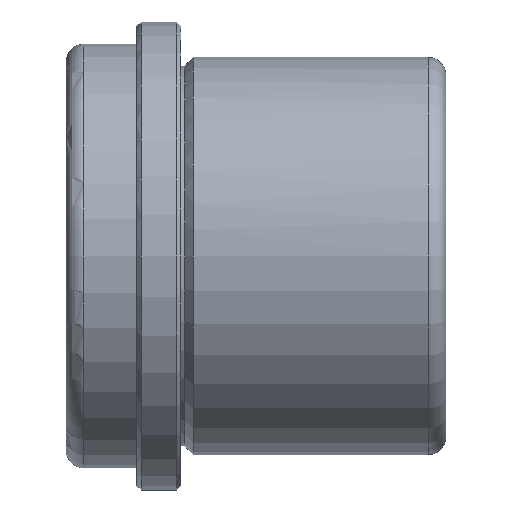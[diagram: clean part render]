
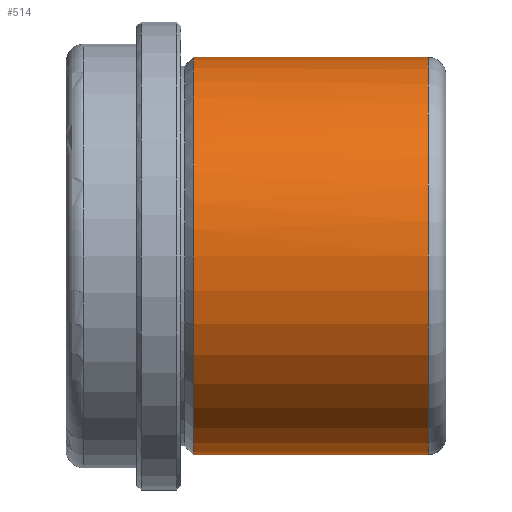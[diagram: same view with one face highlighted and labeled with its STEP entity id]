
A CAD part, front view. The second image highlights one B-rep face of the part: STEP entity #514.
In plain terms, the highlighted cylindrical face has radius 22.5 mm (diameter 45 mm), a partial arc.
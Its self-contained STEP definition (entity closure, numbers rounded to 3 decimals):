
#297=CARTESIAN_POINT('Line Origine',(30.,0.,22.5)) ;
#301=CARTESIAN_POINT('Vertex',(28.,0.,22.5)) ;
#303=CARTESIAN_POINT('Vertex',(1.414,0.,22.5)) ;
#317=CARTESIAN_POINT('Vertex',(28.,0.,-22.5)) ;
#320=CARTESIAN_POINT('Line Origine',(30.,0.,-22.5)) ;
#324=CARTESIAN_POINT('Vertex',(1.414,0.,-22.5)) ;
#474=CARTESIAN_POINT('Axis2P3D Location',(30.,0.,0.)) ;
#479=CARTESIAN_POINT('Axis2P3D Location',(28.,0.,0.)) ;
#483=CARTESIAN_POINT('Vertex',(28.,-22.5,0.)) ;
#486=CARTESIAN_POINT('Axis2P3D Location',(28.,0.,0.)) ;
#492=CARTESIAN_POINT('Control Point',(1.414,0.,22.5)) ;
#493=CARTESIAN_POINT('Control Point',(1.414,-7.069,22.5)) ;
#494=CARTESIAN_POINT('Control Point',(1.414,-14.144,19.732)) ;
#495=CARTESIAN_POINT('Control Point',(1.414,-19.732,14.144)) ;
#496=CARTESIAN_POINT('Control Point',(1.414,-22.5,7.069)) ;
#497=CARTESIAN_POINT('Control Point',(1.414,-22.5,0.)) ;
#498=CARTESIAN_POINT('Vertex',(1.414,-22.5,0.)) ;
#501=CARTESIAN_POINT('Axis2P3D Location',(1.414,0.,0.)) ;
#298=DIRECTION('Vector Direction',(-1.,0.,0.)) ;
#321=DIRECTION('Vector Direction',(-1.,0.,0.)) ;
#475=DIRECTION('Axis2P3D Direction',(-1.,-0.,-0.)) ;
#476=DIRECTION('Axis2P3D XDirection',(0.,0.,-1.)) ;
#480=DIRECTION('Axis2P3D Direction',(-1.,-0.,-0.)) ;
#487=DIRECTION('Axis2P3D Direction',(-1.,-0.,-0.)) ;
#502=DIRECTION('Axis2P3D Direction',(-1.,-0.,-0.)) ;
#477=AXIS2_PLACEMENT_3D('Cylinder Axis2P3D',#474,#475,#476) ;
#481=AXIS2_PLACEMENT_3D('Circle Axis2P3D',#479,#480,$) ;
#488=AXIS2_PLACEMENT_3D('Circle Axis2P3D',#486,#487,$) ;
#503=AXIS2_PLACEMENT_3D('Circle Axis2P3D',#501,#502,$) ;
#507=ORIENTED_EDGE('',*,*,#326,.T.) ;
#508=ORIENTED_EDGE('',*,*,#485,.F.) ;
#509=ORIENTED_EDGE('',*,*,#490,.F.) ;
#510=ORIENTED_EDGE('',*,*,#305,.T.) ;
#511=ORIENTED_EDGE('',*,*,#500,.T.) ;
#512=ORIENTED_EDGE('',*,*,#505,.T.) ;
#299=VECTOR('Line Direction',#298,1.) ;
#322=VECTOR('Line Direction',#321,1.) ;
#514=ADVANCED_FACE('CF 631 32 x 43',(#513),#478,.T.) ;
#491=B_SPLINE_CURVE_WITH_KNOTS('',5,(#492,#493,#494,#495,#496,#497),.UNSPECIFIED.,.F.,.U.,(6,6),(-17.671,17.671),.UNSPECIFIED.) ;
#482=CIRCLE('generated circle',#481,22.5) ;
#489=CIRCLE('generated circle',#488,22.5) ;
#504=CIRCLE('generated circle',#503,22.5) ;
#478=CYLINDRICAL_SURFACE('generated cylinder',#477,22.5) ;
#305=EDGE_CURVE('',#302,#304,#300,.T.) ;
#326=EDGE_CURVE('',#325,#318,#323,.F.) ;
#485=EDGE_CURVE('',#484,#318,#482,.F.) ;
#490=EDGE_CURVE('',#302,#484,#489,.F.) ;
#500=EDGE_CURVE('',#304,#499,#491,.T.) ;
#505=EDGE_CURVE('',#499,#325,#504,.F.) ;
#506=EDGE_LOOP('',(#507,#508,#509,#510,#511,#512)) ;
#513=FACE_OUTER_BOUND('',#506,.T.) ;
#300=LINE('Line',#297,#299) ;
#323=LINE('Line',#320,#322) ;
#302=VERTEX_POINT('',#301) ;
#304=VERTEX_POINT('',#303) ;
#318=VERTEX_POINT('',#317) ;
#325=VERTEX_POINT('',#324) ;
#484=VERTEX_POINT('',#483) ;
#499=VERTEX_POINT('',#498) ;
